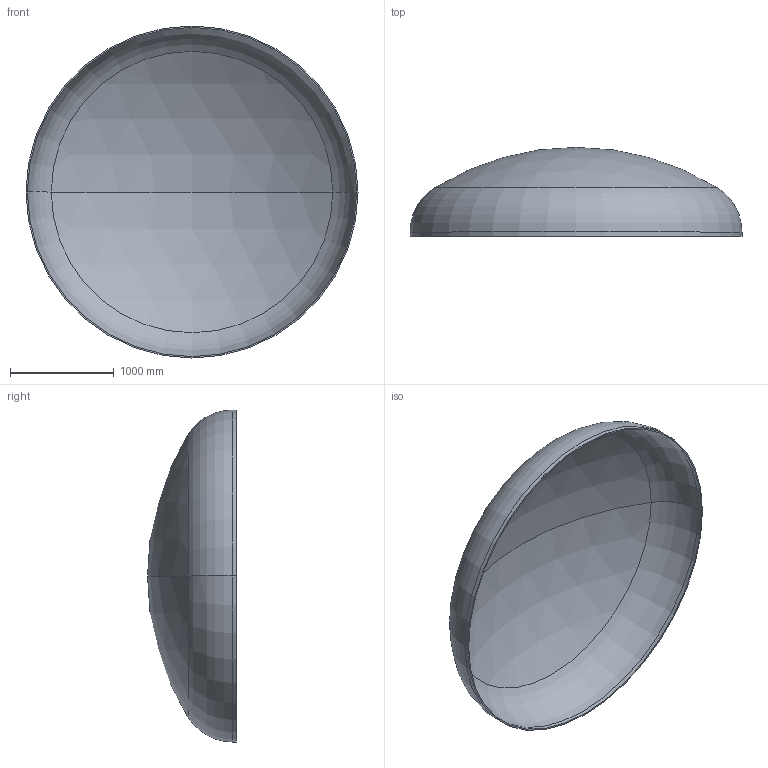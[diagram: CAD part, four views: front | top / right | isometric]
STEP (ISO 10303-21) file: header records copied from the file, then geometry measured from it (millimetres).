
FILE_DESCRIPTION (( 'STEP AP203' ), '1' );
FILE_NAME ('DIN 28013 Korbbogenform_-_Boden DIN 28013 - 3200 x 40 - I - s=13.step', '2016-07-01T18:19:46', ( '' ), ( '' ), 'SwSTEP 2.0', 'SolidWorks 2013', '' );
FILE_SCHEMA (( 'CONFIG_CONTROL_DESIGN' ));
Length unit declared in the file: millimetre
Products named in the file (1): DIN 28013 Korbbogenform_-_Boden DIN 28013 - 3200 x 40 - I - s=13
Bounding box: 3200 x 857.58 x 3200 mm (x, y, z)
Volume: 149082072.4 mm3; surface area: 23066207.5 mm2
Topology: 1 solids, 1 shells, 13 faces, 24 edges, 14 vertices
Faces by surface type: torus 4, cylinder 4, sphere 4, plane 1
Entity records: 407 total; most frequent: DIRECTION 72, CARTESIAN_POINT 52, ORIENTED_EDGE 48, AXIS2_PLACEMENT_3D 34, EDGE_CURVE 24, CIRCLE 20, EDGE_LOOP 14, VERTEX_POINT 14
